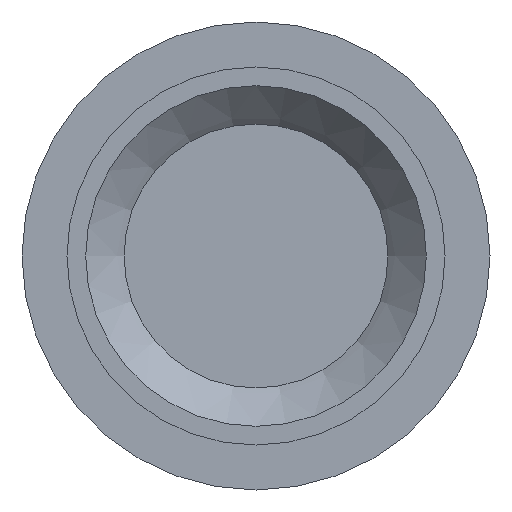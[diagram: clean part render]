
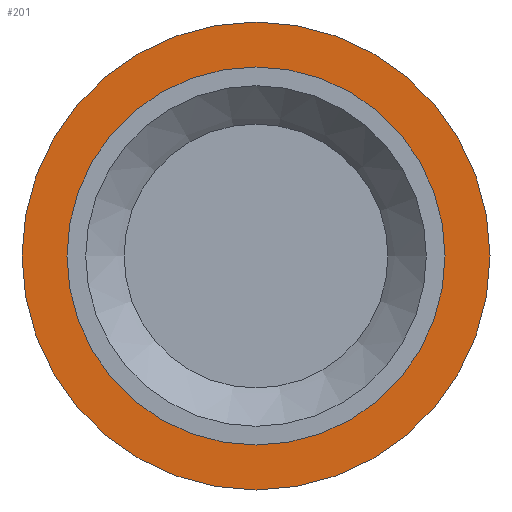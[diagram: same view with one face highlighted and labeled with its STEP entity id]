
A CAD part, left-side view. The second image highlights one B-rep face of the part: STEP entity #201.
In plain terms, the highlighted planar face has unit normal (-1, 0, 0).
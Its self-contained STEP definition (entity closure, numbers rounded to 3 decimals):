
#17=PLANE($,#231);
#32=FACE_BOUND($,#75,.T.);
#50=FACE_OUTER_BOUND($,#74,.T.);
#74=EDGE_LOOP($,(#164));
#75=EDGE_LOOP($,(#165));
#103=CIRCLE($,#230,2.565);
#104=CIRCLE($,#232,3.175);
#121=VERTEX_POINT($,#351);
#122=VERTEX_POINT($,#354);
#139=EDGE_CURVE($,#121,#121,#103,.T.);
#140=EDGE_CURVE($,#122,#122,#104,.T.);
#164=ORIENTED_EDGE($,*,*,#140,.F.);
#165=ORIENTED_EDGE($,*,*,#139,.T.);
#201=ADVANCED_FACE($,(#50,#32),#17,.T.);
#230=AXIS2_PLACEMENT_3D($,#352,#283,#284);
#231=AXIS2_PLACEMENT_3D($,#353,#285,#286);
#232=AXIS2_PLACEMENT_3D($,#355,#287,#288);
#283=DIRECTION('center_axis',(1.,0.,0.));
#284=DIRECTION('ref_axis',(0.,1.,0.));
#285=DIRECTION('center_axis',(-1.,0.,0.));
#286=DIRECTION('ref_axis',(0.,0.,1.));
#287=DIRECTION('center_axis',(1.,0.,0.));
#288=DIRECTION('ref_axis',(0.,1.,0.));
#351=CARTESIAN_POINT('',(4.394,2.565,0.));
#352=CARTESIAN_POINT('Origin',(4.394,0.,0.));
#353=CARTESIAN_POINT('Origin',(4.394,2.87,0.));
#354=CARTESIAN_POINT('',(4.394,3.175,0.));
#355=CARTESIAN_POINT('Origin',(4.394,0.,0.));
